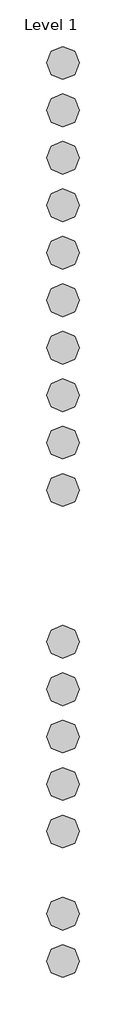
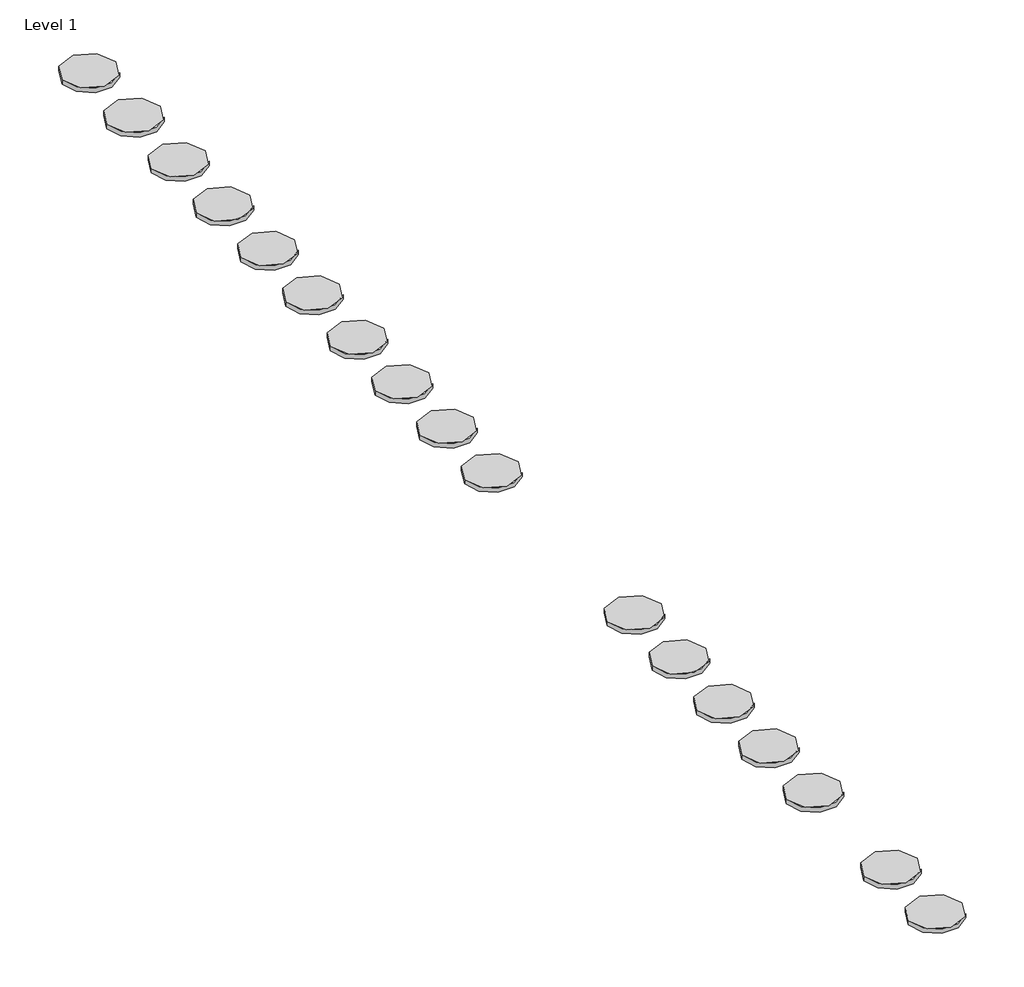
# One storey, incomplete: 17 proxies.
"""IFC4 building model written with IfcOpenShell, lengths in millimetres."""

from ifc_helpers import new_model, si_unit, origin, place, context, project, spatial, transform, mapped, element, save
from components import materialmodel_materialmodel_e4bf98eb

model = new_model("IFC4")

# Units and contexts
model_context = context("Model", 3, world=origin())
ifc_project = project(units=[si_unit("LENGTHUNIT", "METRE", prefix="MILLI")], contexts=[model_context])

# Site, building, storey
site = spatial("IfcSite", under=ifc_project)
building = spatial("IfcBuilding", under=site)
storey = spatial("IfcBuildingStorey", under=building, Name="Level 1", Elevation=0.0)

# Proxies
placement = place(None, origin())
materialmodel_materialmodel_shape = materialmodel_materialmodel_e4bf98eb(model_context)
element("IfcBuildingElementProxy", 1, Name="MaterialModel : MaterialModel", ObjectType="MaterialModel : MaterialModel", at=placement, inside=storey, context=model_context, shape_type="MappedRepresentation", body=[
    mapped(materialmodel_materialmodel_shape, transform((-15805.0458963, 12078.3827349, 0.0), x_axis=(1.0, 0.0, 0.0), y_axis=(0.0, 1.0, 0.0), z_axis=(0.0, 0.0, 1.0))),
])
element("IfcBuildingElementProxy", 2, Name="MaterialModel : MaterialModel", ObjectType="MaterialModel : MaterialModel", at=placement, inside=storey, context=model_context, shape_type="MappedRepresentation", body=[
    mapped(materialmodel_materialmodel_shape, transform((-15805.0458963, 11948.2481656, 0.0), x_axis=(1.0, 0.0, 0.0), y_axis=(0.0, 1.0, 0.0), z_axis=(0.0, 0.0, 1.0))),
])
element("IfcBuildingElementProxy", 3, Name="MaterialModel : MaterialModel", ObjectType="MaterialModel : MaterialModel", at=placement, inside=storey, context=model_context, shape_type="MappedRepresentation", body=[
    mapped(materialmodel_materialmodel_shape, transform((-15805.0458963, 13665.4598456, 0.0), x_axis=(1.0, 0.0, 0.0), y_axis=(0.0, 1.0, 0.0), z_axis=(0.0, 0.0, 1.0))),
])
element("IfcBuildingElementProxy", 4, Name="MaterialModel : MaterialModel", ObjectType="MaterialModel : MaterialModel", at=placement, inside=storey, context=model_context, shape_type="MappedRepresentation", body=[
    mapped(materialmodel_materialmodel_shape, transform((-15805.0458963, 13535.3252764, 0.0), x_axis=(1.0, 0.0, 0.0), y_axis=(0.0, 1.0, 0.0), z_axis=(0.0, 0.0, 1.0))),
])
element("IfcBuildingElementProxy", 5, Name="MaterialModel : MaterialModel", ObjectType="MaterialModel : MaterialModel", at=placement, inside=storey, context=model_context, shape_type="MappedRepresentation", body=[
    mapped(materialmodel_materialmodel_shape, transform((-15805.0458963, 13275.0561378, 0.0), x_axis=(1.0, 0.0, 0.0), y_axis=(0.0, 1.0, 0.0), z_axis=(0.0, 0.0, 1.0))),
])
element("IfcBuildingElementProxy", 6, Name="MaterialModel : MaterialModel", ObjectType="MaterialModel : MaterialModel", at=placement, inside=storey, context=model_context, shape_type="MappedRepresentation", body=[
    mapped(materialmodel_materialmodel_shape, transform((-15805.0458963, 13014.7869993, 0.0), x_axis=(1.0, 0.0, 0.0), y_axis=(0.0, 1.0, 0.0), z_axis=(0.0, 0.0, 1.0))),
])
element("IfcBuildingElementProxy", 7, Name="MaterialModel : MaterialModel", ObjectType="MaterialModel : MaterialModel", at=placement, inside=storey, context=model_context, shape_type="MappedRepresentation", body=[
    mapped(materialmodel_materialmodel_shape, transform((-15805.0458963, 12754.5178607, 0.0), x_axis=(1.0, 0.0, 0.0), y_axis=(0.0, 1.0, 0.0), z_axis=(0.0, 0.0, 1.0))),
])
element("IfcBuildingElementProxy", 8, Name="MaterialModel : MaterialModel", ObjectType="MaterialModel : MaterialModel", at=placement, inside=storey, context=model_context, shape_type="MappedRepresentation", body=[
    mapped(materialmodel_materialmodel_shape, transform((-15805.0458963, 12494.2487222, 0.0), x_axis=(1.0, 0.0, 0.0), y_axis=(0.0, 1.0, 0.0), z_axis=(0.0, 0.0, 1.0))),
])
element("IfcBuildingElementProxy", 9, Name="MaterialModel : MaterialModel", ObjectType="MaterialModel : MaterialModel", at=placement, inside=storey, context=model_context, shape_type="MappedRepresentation", body=[
    mapped(materialmodel_materialmodel_shape, transform((-15805.0458963, 13405.1907071, 0.0), x_axis=(1.0, 0.0, 0.0), y_axis=(0.0, 1.0, 0.0), z_axis=(0.0, 0.0, 1.0))),
])
element("IfcBuildingElementProxy", 10, Name="MaterialModel : MaterialModel", ObjectType="MaterialModel : MaterialModel", at=placement, inside=storey, context=model_context, shape_type="MappedRepresentation", body=[
    mapped(materialmodel_materialmodel_shape, transform((-15805.0458963, 13144.9215685, 0.0), x_axis=(1.0, 0.0, 0.0), y_axis=(0.0, 1.0, 0.0), z_axis=(0.0, 0.0, 1.0))),
])
element("IfcBuildingElementProxy", 11, Name="MaterialModel : MaterialModel", ObjectType="MaterialModel : MaterialModel", at=placement, inside=storey, context=model_context, shape_type="MappedRepresentation", body=[
    mapped(materialmodel_materialmodel_shape, transform((-15805.0458963, 12884.65243, 0.0), x_axis=(1.0, 0.0, 0.0), y_axis=(0.0, 1.0, 0.0), z_axis=(0.0, 0.0, 1.0))),
])
element("IfcBuildingElementProxy", 12, Name="MaterialModel : MaterialModel", ObjectType="MaterialModel : MaterialModel", at=placement, inside=storey, context=model_context, shape_type="MappedRepresentation", body=[
    mapped(materialmodel_materialmodel_shape, transform((-15805.0458963, 12624.3832914, 0.0), x_axis=(1.0, 0.0, 0.0), y_axis=(0.0, 1.0, 0.0), z_axis=(0.0, 0.0, 1.0))),
])
element("IfcBuildingElementProxy", 13, Name="MaterialModel : MaterialModel", ObjectType="MaterialModel : MaterialModel", at=placement, inside=storey, context=model_context, shape_type="MappedRepresentation", body=[
    mapped(materialmodel_materialmodel_shape, transform((-15805.0458963, 11818.1135964, 0.0), x_axis=(1.0, 0.0, 0.0), y_axis=(0.0, 1.0, 0.0), z_axis=(0.0, 0.0, 1.0))),
])
element("IfcBuildingElementProxy", 14, Name="MaterialModel : MaterialModel", ObjectType="MaterialModel : MaterialModel", at=placement, inside=storey, context=model_context, shape_type="MappedRepresentation", body=[
    mapped(materialmodel_materialmodel_shape, transform((-15805.0458963, 11687.9790271, 0.0), x_axis=(1.0, 0.0, 0.0), y_axis=(0.0, 1.0, 0.0), z_axis=(0.0, 0.0, 1.0))),
])
element("IfcBuildingElementProxy", 15, Name="MaterialModel : MaterialModel", ObjectType="MaterialModel : MaterialModel", at=placement, inside=storey, context=model_context, shape_type="MappedRepresentation", body=[
    mapped(materialmodel_materialmodel_shape, transform((-15805.0458963, 11557.8444578, 0.0), x_axis=(1.0, 0.0, 0.0), y_axis=(0.0, 1.0, 0.0), z_axis=(0.0, 0.0, 1.0))),
])
element("IfcBuildingElementProxy", 16, Name="MaterialModel : MaterialModel", ObjectType="MaterialModel : MaterialModel", at=placement, inside=storey, context=model_context, shape_type="MappedRepresentation", body=[
    mapped(materialmodel_materialmodel_shape, transform((-15805.0458963, 11332.7098885, 0.0), x_axis=(1.0, 0.0, 0.0), y_axis=(0.0, 1.0, 0.0), z_axis=(0.0, 0.0, 1.0))),
])
element("IfcBuildingElementProxy", 17, Name="MaterialModel : MaterialModel", ObjectType="MaterialModel : MaterialModel", at=placement, inside=storey, context=model_context, shape_type="MappedRepresentation", body=[
    mapped(materialmodel_materialmodel_shape, transform((-15805.0458963, 11202.5753193, 0.0), x_axis=(1.0, 0.0, 0.0), y_axis=(0.0, 1.0, 0.0), z_axis=(0.0, 0.0, 1.0))),
])

save(model, "model.ifc")
